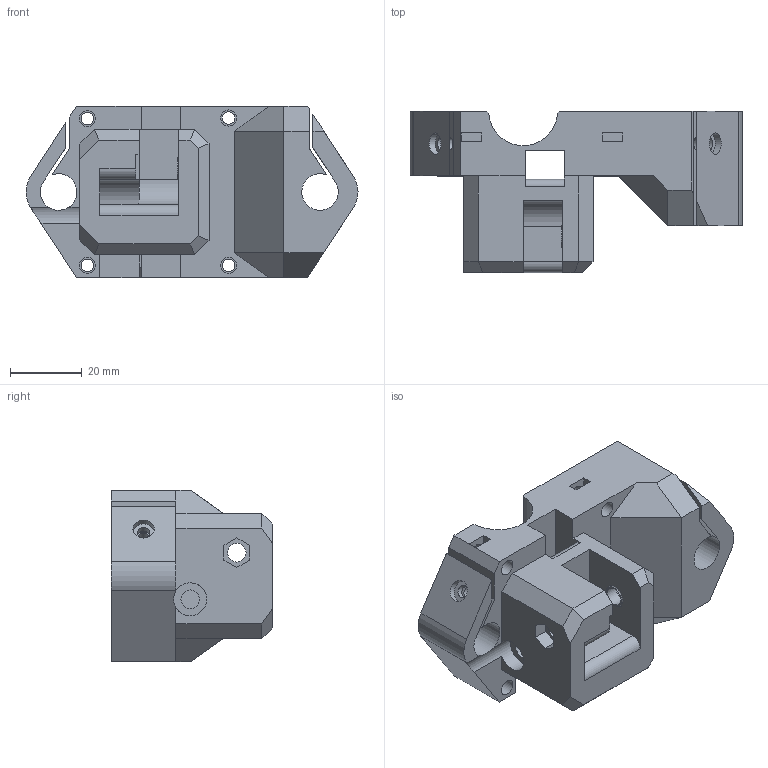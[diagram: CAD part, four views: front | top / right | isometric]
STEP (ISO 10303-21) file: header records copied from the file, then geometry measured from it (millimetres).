
FILE_DESCRIPTION(/* description */ (''),/* implementation_level */ '2;1');
FILE_NAME(/* name */ '/Users/nicolas/Desktop/Chariot Y NGEN Pulley bore 5mm/Chariot Y Left.step',/* time_stamp */ '2021-01-24T22:18:34+01:00',/* author */ (''),/* organization */ (''),/* preprocessor_version */ 'ST-DEVELOPER v18.1',/* originating_system */ 'Autodesk Translation Framework v9.7.0.1280',/* authorisation */ '');
FILE_SCHEMA (('AUTOMOTIVE_DESIGN { 1 0 10303 214 3 1 1 }'));
Length unit declared in the file: millimetre
Products named in the file (1): Chariot Y Left
Bounding box: 92.7 x 45 x 48 mm (x, y, z)
Volume: 84561.1 mm3; surface area: 25734.9 mm2
Topology: 1 solids, 1 shells, 163 faces, 430 edges, 283 vertices
Faces by surface type: plane 123, cylinder 37, torus 3
Full cylindrical faces by diameter (mm): 3.5 x14, 4.5 x4, 5.2 x4, 6 x2, 9.2 x2
Entity records: 5126 total; most frequent: CARTESIAN_POINT 887, ORIENTED_EDGE 860, DIRECTION 847, EDGE_CURVE 430, LINE 339, VECTOR 339, VERTEX_POINT 283, AXIS2_PLACEMENT_3D 254
